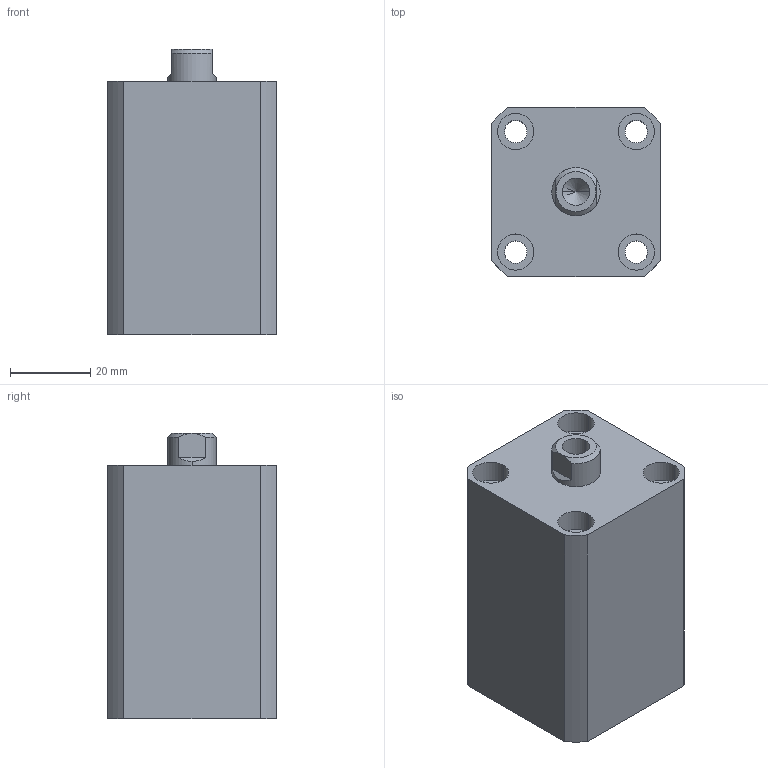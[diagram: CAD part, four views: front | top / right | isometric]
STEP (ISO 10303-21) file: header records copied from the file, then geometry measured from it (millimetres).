
FILE_DESCRIPTION (( 'STEP AP203' ), '1' );
FILE_NAME ('HTB-SDMB20-20N.STEP', '2019-10-08T11:54:36', ( '微软用户' ), ( '微软中国' ), 'SwSTEP 2.0', 'SolidWorks 2012', '' );
FILE_SCHEMA (( 'CONFIG_CONTROL_DESIGN' ));
Length unit declared in the file: millimetre
Products named in the file (3): HTB-SDMB20-20掛极; HTB-SDMB20-20N活塞杆; HTB-SDMB20-20N
Assembly tree (2 placements, depth 2):
  HTB-SDMB20-20N
    HTB-SDMB20-20掛极
    HTB-SDMB20-20N活塞杆
Bounding box: 42 x 42 x 71 mm (x, y, z)
Volume: 97312.5 mm3; surface area: 25357 mm2
Topology: 2 solids, 2 shells, 136 faces, 326 edges, 213 vertices
Faces by surface type: plane 64, cylinder 46, bspline 16, torus 6, cone 4
Entity records: 5023 total; most frequent: CARTESIAN_POINT 1570, ORIENTED_EDGE 648, DIRECTION 640, EDGE_CURVE 324, AXIS2_PLACEMENT_3D 231, VERTEX_POINT 213, VECTOR 178, LINE 178
